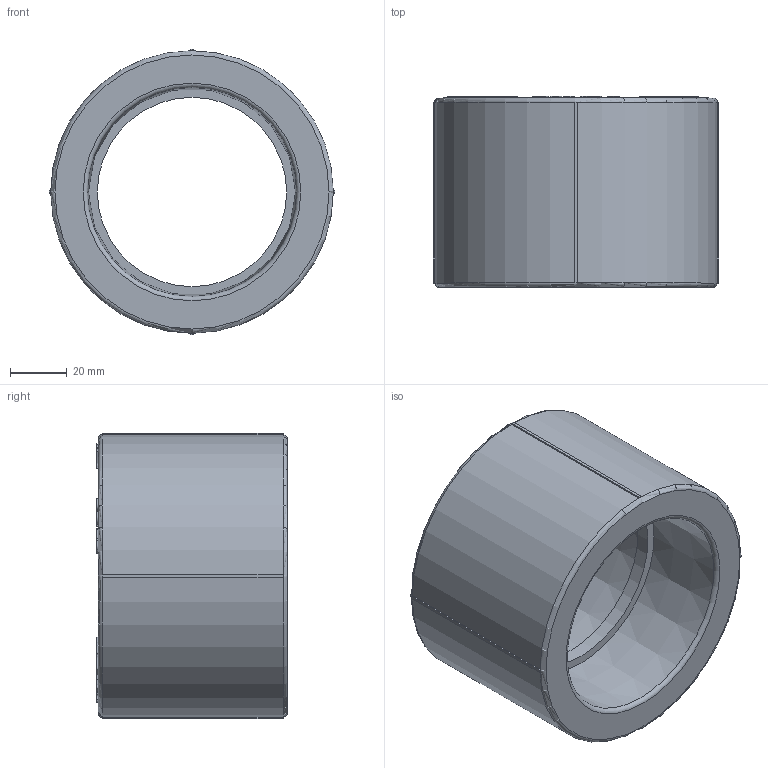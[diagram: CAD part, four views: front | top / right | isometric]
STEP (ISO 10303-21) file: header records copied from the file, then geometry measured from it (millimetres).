
FILE_DESCRIPTION(('STEP AP203'), '1');
FILE_NAME('ÂÐ.713151.007 - VTp.703.0.075', '', ('UNSPECIFIED'), ('UNSPECIFIED'), 'C3D Converter', 'C3D Toolkit', '');
FILE_SCHEMA(('CONFIG_CONTROL_DESIGN'));
Length unit declared in the file: millimetre
Products named in the file (1): ВР.713151.007
Bounding box: 101 x 67.5 x 101 mm (x, y, z)
Volume: 244681.5 mm3; surface area: 44705.9 mm2
Topology: 1 solids, 1 shells, 551 faces, 1536 edges, 1018 vertices
Faces by surface type: extrusion 307, plane 233, cylinder 5, torus 4, cone 2
Full cylindrical faces by diameter (mm): 67 x1
Entity records: 17917 total; most frequent: CARTESIAN_POINT 4941, ORIENTED_EDGE 3058, DIRECTION 1740, EDGE_CURVE 1529, VECTOR 1194, VERTEX_POINT 1018, B_SPLINE_CURVE_WITH_KNOTS 921, LINE 887
